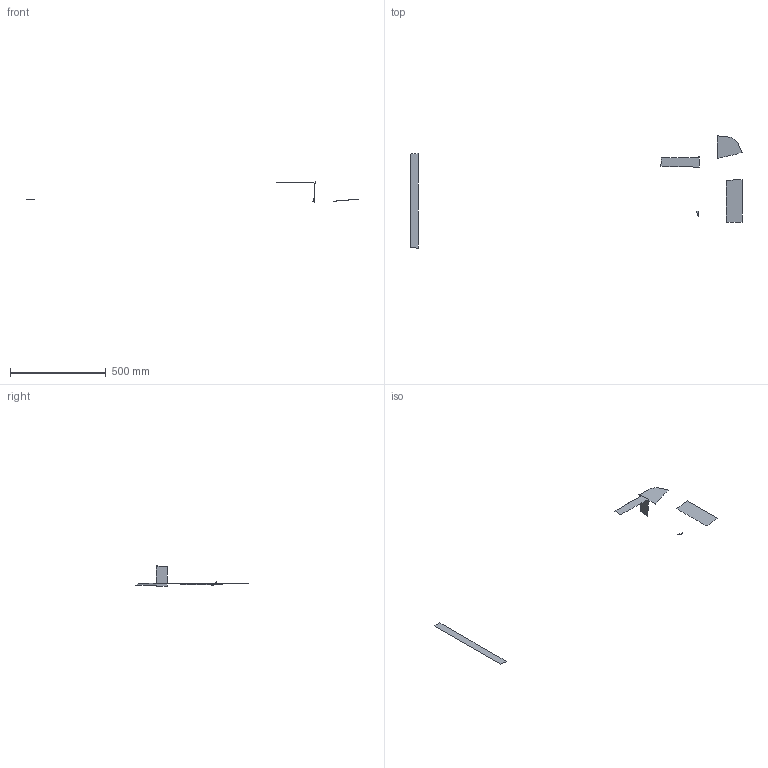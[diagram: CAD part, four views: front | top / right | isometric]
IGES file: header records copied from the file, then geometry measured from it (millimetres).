
Global section: file name: finv3.igs; native system: ANSA9.x; preprocessor: 1.2; author: cky; date: **0103.144123; units: millimetre
Bounding box: 1736.37 x 588.1 x 107.38 mm (x, y, z)
Surface area: 66395.5 mm2 (no closed solid volume)
Topology: 0 solids, 0 shells, 7 faces, 111 edges, 111 vertices
Faces by surface type: bspline 7
